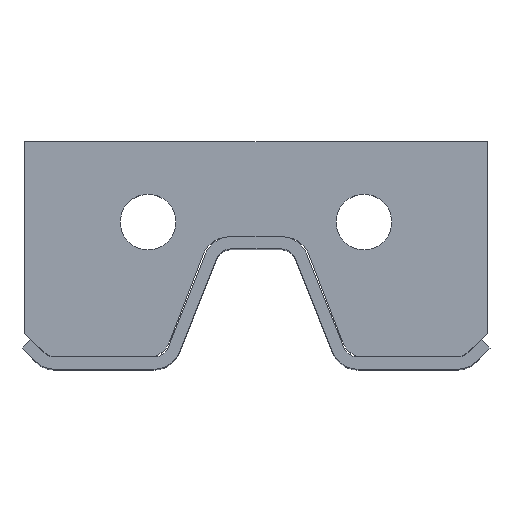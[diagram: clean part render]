
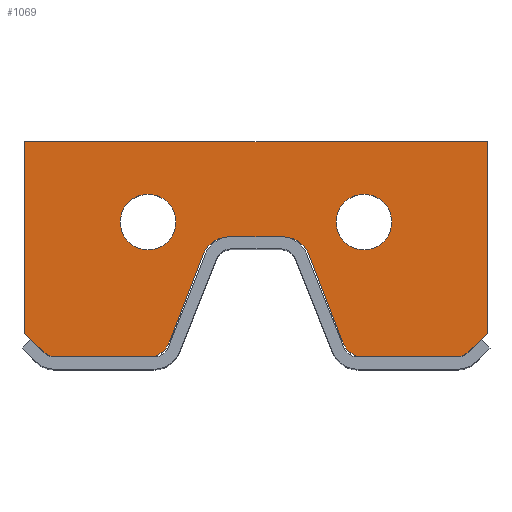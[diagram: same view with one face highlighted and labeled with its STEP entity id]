
A CAD part, top view. The second image highlights one B-rep face of the part: STEP entity #1069.
In plain terms, the highlighted planar face has unit normal (0, 0, 1).
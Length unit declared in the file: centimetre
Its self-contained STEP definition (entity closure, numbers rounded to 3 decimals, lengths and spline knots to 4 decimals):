
#38=FACE_BOUND('',#188,.T.);
#39=FACE_BOUND('',#189,.T.);
#69=PLANE('',#1176);
#123=FACE_OUTER_BOUND('',#187,.T.);
#187=EDGE_LOOP('',(#974,#975,#976,#977,#978,#979,#980,#981,#982,#983,#984,
#985,#986,#987,#988,#989));
#188=EDGE_LOOP('',(#990));
#189=EDGE_LOOP('',(#991));
#256=LINE('',#1707,#358);
#261=LINE('',#1721,#363);
#265=LINE('',#1733,#367);
#268=LINE('',#1739,#370);
#271=LINE('',#1745,#373);
#274=LINE('',#1751,#376);
#277=LINE('',#1757,#379);
#281=LINE('',#1769,#383);
#285=LINE('',#1781,#387);
#289=LINE('',#1793,#391);
#358=VECTOR('',#1397,1.);
#363=VECTOR('',#1410,1.);
#367=VECTOR('',#1422,1.);
#370=VECTOR('',#1427,1.);
#373=VECTOR('',#1432,1.);
#376=VECTOR('',#1437,1.);
#379=VECTOR('',#1442,1.);
#383=VECTOR('',#1454,1.);
#387=VECTOR('',#1466,1.);
#391=VECTOR('',#1478,1.);
#427=CIRCLE('',#1143,9.);
#429=CIRCLE('',#1146,9.);
#430=CIRCLE('',#1149,8.);
#432=CIRCLE('',#1153,8.);
#434=CIRCLE('',#1161,8.);
#436=CIRCLE('',#1165,8.);
#438=CIRCLE('',#1169,8.);
#440=CIRCLE('',#1173,8.);
#507=VERTEX_POINT('',#1695);
#509=VERTEX_POINT('',#1701);
#510=VERTEX_POINT('',#1705);
#511=VERTEX_POINT('',#1706);
#514=VERTEX_POINT('',#1714);
#516=VERTEX_POINT('',#1720);
#518=VERTEX_POINT('',#1726);
#520=VERTEX_POINT('',#1732);
#522=VERTEX_POINT('',#1738);
#524=VERTEX_POINT('',#1744);
#526=VERTEX_POINT('',#1750);
#528=VERTEX_POINT('',#1756);
#530=VERTEX_POINT('',#1762);
#532=VERTEX_POINT('',#1768);
#534=VERTEX_POINT('',#1774);
#536=VERTEX_POINT('',#1780);
#538=VERTEX_POINT('',#1786);
#540=VERTEX_POINT('',#1792);
#640=EDGE_CURVE('',#507,#507,#427,.T.);
#643=EDGE_CURVE('',#509,#509,#429,.T.);
#644=EDGE_CURVE('',#510,#511,#256,.T.);
#648=EDGE_CURVE('',#511,#514,#430,.T.);
#651=EDGE_CURVE('',#514,#516,#261,.T.);
#654=EDGE_CURVE('',#516,#518,#432,.T.);
#657=EDGE_CURVE('',#518,#520,#265,.T.);
#660=EDGE_CURVE('',#520,#522,#268,.T.);
#663=EDGE_CURVE('',#522,#524,#271,.T.);
#666=EDGE_CURVE('',#524,#526,#274,.T.);
#669=EDGE_CURVE('',#526,#528,#277,.T.);
#672=EDGE_CURVE('',#528,#530,#434,.T.);
#675=EDGE_CURVE('',#530,#532,#281,.T.);
#678=EDGE_CURVE('',#532,#534,#436,.T.);
#681=EDGE_CURVE('',#534,#536,#285,.T.);
#684=EDGE_CURVE('',#536,#538,#438,.T.);
#687=EDGE_CURVE('',#538,#540,#289,.T.);
#690=EDGE_CURVE('',#540,#510,#440,.T.);
#974=ORIENTED_EDGE('',*,*,#690,.T.);
#975=ORIENTED_EDGE('',*,*,#644,.T.);
#976=ORIENTED_EDGE('',*,*,#648,.T.);
#977=ORIENTED_EDGE('',*,*,#651,.T.);
#978=ORIENTED_EDGE('',*,*,#654,.T.);
#979=ORIENTED_EDGE('',*,*,#657,.T.);
#980=ORIENTED_EDGE('',*,*,#660,.T.);
#981=ORIENTED_EDGE('',*,*,#663,.T.);
#982=ORIENTED_EDGE('',*,*,#666,.T.);
#983=ORIENTED_EDGE('',*,*,#669,.T.);
#984=ORIENTED_EDGE('',*,*,#672,.T.);
#985=ORIENTED_EDGE('',*,*,#675,.T.);
#986=ORIENTED_EDGE('',*,*,#678,.T.);
#987=ORIENTED_EDGE('',*,*,#681,.T.);
#988=ORIENTED_EDGE('',*,*,#684,.T.);
#989=ORIENTED_EDGE('',*,*,#687,.T.);
#990=ORIENTED_EDGE('',*,*,#643,.F.);
#991=ORIENTED_EDGE('',*,*,#640,.F.);
#1069=ADVANCED_FACE('',(#123,#38,#39),#69,.T.);
#1143=AXIS2_PLACEMENT_3D('',#1697,#1386,#1387);
#1146=AXIS2_PLACEMENT_3D('',#1703,#1393,#1394);
#1149=AXIS2_PLACEMENT_3D('',#1715,#1403,#1404);
#1153=AXIS2_PLACEMENT_3D('',#1727,#1415,#1416);
#1161=AXIS2_PLACEMENT_3D('',#1763,#1447,#1448);
#1165=AXIS2_PLACEMENT_3D('',#1775,#1459,#1460);
#1169=AXIS2_PLACEMENT_3D('',#1787,#1471,#1472);
#1173=AXIS2_PLACEMENT_3D('',#1798,#1483,#1484);
#1176=AXIS2_PLACEMENT_3D('',#1801,#1489,#1490);
#1386=DIRECTION('center_axis',(0.,0.,1.));
#1387=DIRECTION('ref_axis',(1.,0.,0.));
#1393=DIRECTION('center_axis',(0.,0.,1.));
#1394=DIRECTION('ref_axis',(1.,0.,0.));
#1397=DIRECTION('',(0.359,-0.933,0.));
#1403=DIRECTION('center_axis',(0.,0.,1.));
#1404=DIRECTION('ref_axis',(-0.566,-0.824,0.));
#1410=DIRECTION('',(1.,0.,0.));
#1415=DIRECTION('center_axis',(0.,0.,1.));
#1416=DIRECTION('ref_axis',(0.383,-0.924,0.));
#1422=DIRECTION('',(0.707,0.707,0.));
#1427=DIRECTION('',(0.,1.,0.));
#1432=DIRECTION('',(-1.,0.,0.));
#1437=DIRECTION('',(0.,-1.,0.));
#1442=DIRECTION('',(0.707,-0.707,0.));
#1447=DIRECTION('center_axis',(0.,0.,1.));
#1448=DIRECTION('ref_axis',(-0.383,-0.924,0.));
#1454=DIRECTION('',(1.,0.,0.));
#1459=DIRECTION('center_axis',(0.,0.,1.));
#1460=DIRECTION('ref_axis',(0.566,-0.824,0.));
#1466=DIRECTION('',(0.359,0.933,0.));
#1471=DIRECTION('center_axis',(0.,0.,-1.));
#1472=DIRECTION('ref_axis',(-0.566,0.824,0.));
#1478=DIRECTION('',(1.,0.,0.));
#1483=DIRECTION('center_axis',(0.,0.,-1.));
#1484=DIRECTION('ref_axis',(0.566,0.824,0.));
#1489=DIRECTION('center_axis',(0.,0.,1.));
#1490=DIRECTION('ref_axis',(1.,0.,0.));
#1695=CARTESIAN_POINT('',(26.,48.,0.));
#1697=CARTESIAN_POINT('Origin',(35.,48.,0.));
#1701=CARTESIAN_POINT('',(-44.,48.,0.));
#1703=CARTESIAN_POINT('Origin',(-35.,48.,0.));
#1705=CARTESIAN_POINT('',(16.9724,37.8718,0.));
#1706=CARTESIAN_POINT('',(28.0276,9.1282,0.));
#1707=CARTESIAN_POINT('',(16.9724,37.8718,0.));
#1714=CARTESIAN_POINT('',(35.4944,4.,0.));
#1715=CARTESIAN_POINT('Origin',(35.4944,12.,0.));
#1720=CARTESIAN_POINT('',(63.6863,4.,0.));
#1721=CARTESIAN_POINT('',(35.4944,4.,0.));
#1726=CARTESIAN_POINT('',(69.3431,6.3431,0.));
#1727=CARTESIAN_POINT('Origin',(63.6863,12.,0.));
#1732=CARTESIAN_POINT('',(75.,12.,0.));
#1733=CARTESIAN_POINT('',(69.3431,6.3431,0.));
#1738=CARTESIAN_POINT('',(75.,74.,0.));
#1739=CARTESIAN_POINT('',(75.,12.,0.));
#1744=CARTESIAN_POINT('',(-75.,74.,0.));
#1745=CARTESIAN_POINT('',(75.,74.,0.));
#1750=CARTESIAN_POINT('',(-75.,12.,0.));
#1751=CARTESIAN_POINT('',(-75.,74.,0.));
#1756=CARTESIAN_POINT('',(-69.3431,6.3431,0.));
#1757=CARTESIAN_POINT('',(-75.,12.,0.));
#1762=CARTESIAN_POINT('',(-63.6863,4.,0.));
#1763=CARTESIAN_POINT('Origin',(-63.6863,12.,0.));
#1768=CARTESIAN_POINT('',(-35.4944,4.,0.));
#1769=CARTESIAN_POINT('',(-63.6863,4.,0.));
#1774=CARTESIAN_POINT('',(-28.0276,9.1282,0.));
#1775=CARTESIAN_POINT('Origin',(-35.4944,12.,0.));
#1780=CARTESIAN_POINT('',(-16.9724,37.8718,0.));
#1781=CARTESIAN_POINT('',(-28.0276,9.1282,0.));
#1786=CARTESIAN_POINT('',(-9.5056,43.,0.));
#1787=CARTESIAN_POINT('Origin',(-9.5056,35.,0.));
#1792=CARTESIAN_POINT('',(9.5056,43.,0.));
#1793=CARTESIAN_POINT('',(-9.5056,43.,0.));
#1798=CARTESIAN_POINT('Origin',(9.5056,35.,0.));
#1801=CARTESIAN_POINT('Origin',(0.,41.9082,0.));
